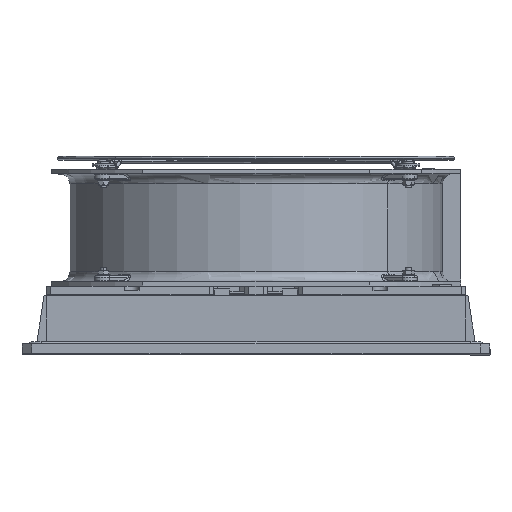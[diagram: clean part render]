
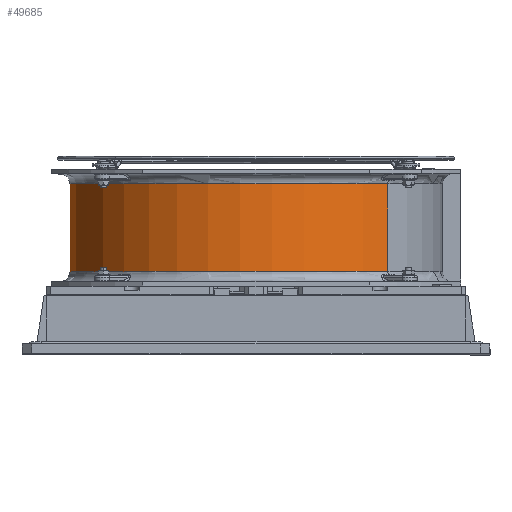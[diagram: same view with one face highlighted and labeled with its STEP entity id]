
A CAD part, top view. The second image highlights one B-rep face of the part: STEP entity #49685.
In plain terms, the highlighted cylindrical face has radius 127.6 mm (diameter 255.2 mm), a partial arc.
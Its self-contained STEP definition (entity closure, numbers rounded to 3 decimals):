
#794 = FACE_OUTER_BOUND ( 'NONE', #29814, .T. ) ;
#1038 = LINE ( 'NONE', #16242, #54576 ) ;
#2233 = CARTESIAN_POINT ( 'NONE',  ( -127.6, 0., 437.907 ) ) ;
#9041 = AXIS2_PLACEMENT_3D ( 'NONE', #34208, #77830, #19549 ) ;
#9305 = DIRECTION ( 'NONE',  ( 0., 0., -1. ) ) ;
#10110 = VERTEX_POINT ( 'NONE', #15744 ) ;
#15744 = CARTESIAN_POINT ( 'NONE',  ( 127.6, 0., 70. ) ) ;
#16242 = CARTESIAN_POINT ( 'NONE',  ( 127.6, 0., 437.907 ) ) ;
#19549 = DIRECTION ( 'NONE',  ( -1., 0., 0. ) ) ;
#19877 = EDGE_CURVE ( 'NONE', #10110, #49134, #80056, .T. ) ;
#23594 = DIRECTION ( 'NONE',  ( 0., 0., -1. ) ) ;
#27062 = ORIENTED_EDGE ( 'NONE', *, *, #37648, .T. ) ;
#27585 = VECTOR ( 'NONE', #45823, 1000. ) ;
#29814 = EDGE_LOOP ( 'NONE', ( #30340, #54911, #27062, #69208 ) ) ;
#30340 = ORIENTED_EDGE ( 'NONE', *, *, #40263, .F. ) ;
#31699 = CARTESIAN_POINT ( 'NONE',  ( -127.6, 0., 70. ) ) ;
#34208 = CARTESIAN_POINT ( 'NONE',  ( 0., 0., 437.907 ) ) ;
#37426 = DIRECTION ( 'NONE',  ( 0., 0., 1. ) ) ;
#37648 = EDGE_CURVE ( 'NONE', #49134, #50589, #83420, .T. ) ;
#38521 = CARTESIAN_POINT ( 'NONE',  ( -127.6, 0., 10. ) ) ;
#40263 = EDGE_CURVE ( 'NONE', #10110, #41567, #1038, .T. ) ;
#41567 = VERTEX_POINT ( 'NONE', #46561 ) ;
#45823 = DIRECTION ( 'NONE',  ( 0., 0., -1. ) ) ;
#46561 = CARTESIAN_POINT ( 'NONE',  ( 127.6, 0., 10. ) ) ;
#46691 = AXIS2_PLACEMENT_3D ( 'NONE', #52883, #9305, #60294 ) ;
#49134 = VERTEX_POINT ( 'NONE', #31699 ) ;
#49685 = ADVANCED_FACE ( 'NONE', ( #794 ), #54344, .T. ) ;
#50589 = VERTEX_POINT ( 'NONE', #38521 ) ;
#52133 = EDGE_CURVE ( 'NONE', #50589, #41567, #75201, .T. ) ;
#52883 = CARTESIAN_POINT ( 'NONE',  ( 0., 0., 70. ) ) ;
#54344 = CYLINDRICAL_SURFACE ( 'NONE', #9041, 127.6 ) ;
#54576 = VECTOR ( 'NONE', #23594, 1000. ) ;
#54911 = ORIENTED_EDGE ( 'NONE', *, *, #19877, .T. ) ;
#60294 = DIRECTION ( 'NONE',  ( 1., 0., 0. ) ) ;
#69208 = ORIENTED_EDGE ( 'NONE', *, *, #52133, .T. ) ;
#75201 = CIRCLE ( 'NONE', #89065, 127.6 ) ;
#77830 = DIRECTION ( 'NONE',  ( 0., 0., -1. ) ) ;
#80056 = CIRCLE ( 'NONE', #46691, 127.6 ) ;
#81031 = CARTESIAN_POINT ( 'NONE',  ( 0., 0., 10. ) ) ;
#83420 = LINE ( 'NONE', #2233, #27585 ) ;
#88382 = DIRECTION ( 'NONE',  ( 1., 0., 0. ) ) ;
#89065 = AXIS2_PLACEMENT_3D ( 'NONE', #81031, #37426, #88382 ) ;
